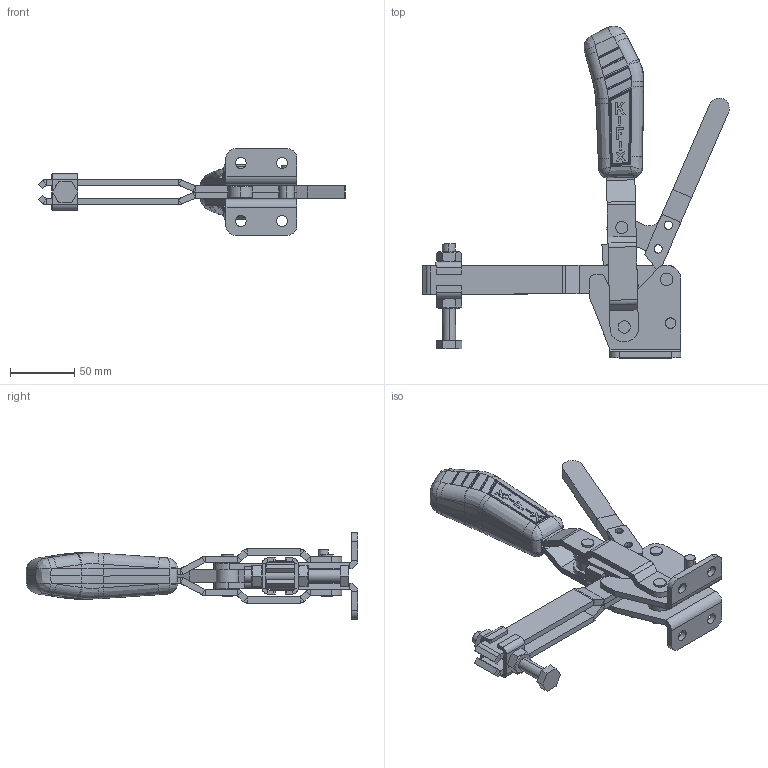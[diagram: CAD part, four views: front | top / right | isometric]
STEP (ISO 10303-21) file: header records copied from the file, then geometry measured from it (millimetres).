
FILE_DESCRIPTION (( 'STEP AP203' ), '1' );
FILE_NAME ('KF-111 DBL TR.STEP', '2014-07-28T18:57:26', ( 'Ricardo' ), ( '' ), 'SwSTEP 2.0', 'SolidWorks 2013', '' );
FILE_SCHEMA (( 'CONFIG_CONTROL_DESIGN' ));
Length unit declared in the file: millimetre
Products named in the file (17): 14.10002; 02.12010_Esquerda; 11.50003; 03.14005; 12.50004; 01.10014; 07.60003; 04.10003A_Direita; 05.20006; 04.10003B_Direita; 18.10027; 04.20003; 18.10028; 06.50009; KF-111 DBL TR; 06.50010; 02.12010_Direita
Assembly tree (22 placements, depth 2):
  KF-111 DBL TR
    02.12010_Direita
    02.12010_Esquerda
    03.14005  x2
    01.10014  x2
    04.10003A_Direita
    04.10003B_Direita
    04.20003
    06.50009  x2
    06.50010  x2
    14.10002  x2
    11.50003  x2
    12.50004
    07.60003
    05.20006
    18.10027
    18.10028
Bounding box: 238.06 x 257.61 x 67 mm (x, y, z)
Volume: 294821.4 mm3; surface area: 122001.9 mm2
Topology: 22 solids, 22 shells, 896 faces, 2154 edges, 1313 vertices
Faces by surface type: plane 389, cylinder 279, bspline 145, sphere 48, cone 32, torus 3
Entity records: 27060 total; most frequent: CARTESIAN_POINT 9128, ORIENTED_EDGE 3564, DIRECTION 2951, EDGE_CURVE 1782, AXIS2_PLACEMENT_3D 1124, VERTEX_POINT 1107, EDGE_LOOP 815, FACE_OUTER_BOUND 734
